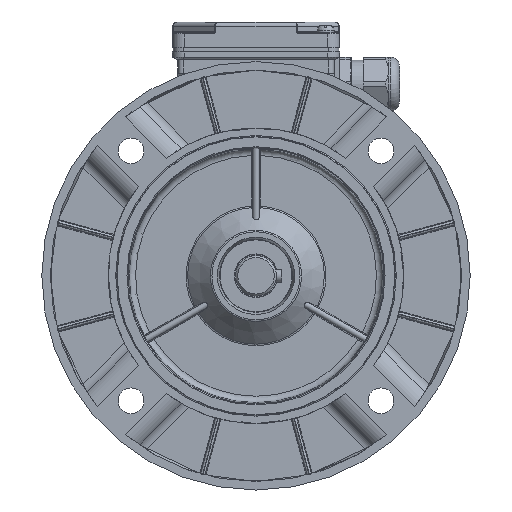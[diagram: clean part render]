
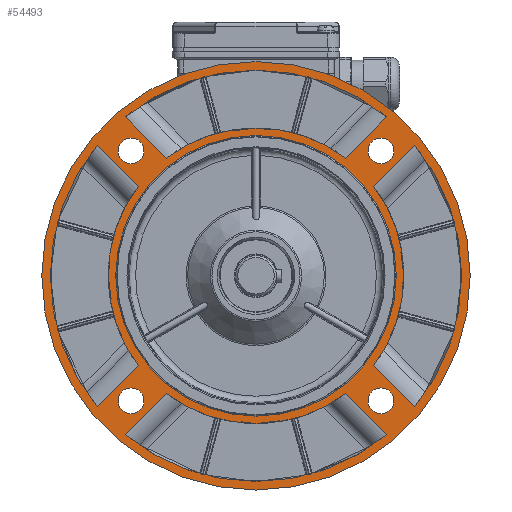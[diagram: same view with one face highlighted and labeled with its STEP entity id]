
A CAD part, left-side view. The second image highlights one B-rep face of the part: STEP entity #54493.
In plain terms, the highlighted planar face has unit normal (-1, 0, 0).
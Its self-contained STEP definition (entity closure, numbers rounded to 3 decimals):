
#4269=LINE('',#77975,#7408);
#4270=LINE('',#77986,#7409);
#4271=LINE('',#78009,#7410);
#4272=LINE('',#78020,#7411);
#4273=LINE('',#78046,#7412);
#4274=LINE('',#78057,#7413);
#4275=LINE('',#78080,#7414);
#4276=LINE('',#78091,#7415);
#7408=VECTOR('',#65931,1000.);
#7409=VECTOR('',#65938,1000.);
#7410=VECTOR('',#65945,1000.);
#7411=VECTOR('',#65952,1000.);
#7412=VECTOR('',#65963,1000.);
#7413=VECTOR('',#65970,1000.);
#7414=VECTOR('',#65977,1000.);
#7415=VECTOR('',#65984,1000.);
#14811=ORIENTED_EDGE('',*,*,#23784,.T.);
#14812=ORIENTED_EDGE('',*,*,#23782,.T.);
#14813=ORIENTED_EDGE('',*,*,#23781,.T.);
#14814=ORIENTED_EDGE('',*,*,#23778,.T.);
#14815=ORIENTED_EDGE('',*,*,#23776,.T.);
#14816=ORIENTED_EDGE('',*,*,#23774,.T.);
#14817=ORIENTED_EDGE('',*,*,#23773,.T.);
#14818=ORIENTED_EDGE('',*,*,#23770,.T.);
#14819=ORIENTED_EDGE('',*,*,#23789,.F.);
#14820=ORIENTED_EDGE('',*,*,#23790,.F.);
#14821=ORIENTED_EDGE('',*,*,#23791,.F.);
#14822=ORIENTED_EDGE('',*,*,#23792,.F.);
#14823=ORIENTED_EDGE('',*,*,#23768,.T.);
#14824=ORIENTED_EDGE('',*,*,#23793,.T.);
#14825=ORIENTED_EDGE('',*,*,#23767,.T.);
#14826=ORIENTED_EDGE('',*,*,#23765,.T.);
#14827=ORIENTED_EDGE('',*,*,#23764,.T.);
#14828=ORIENTED_EDGE('',*,*,#23761,.T.);
#14829=ORIENTED_EDGE('',*,*,#23759,.T.);
#14830=ORIENTED_EDGE('',*,*,#23757,.T.);
#14831=ORIENTED_EDGE('',*,*,#23756,.T.);
#14832=ORIENTED_EDGE('',*,*,#23753,.T.);
#23753=EDGE_CURVE('',#28778,#28777,#31663,.T.);
#23756=EDGE_CURVE('',#28779,#28778,#4269,.T.);
#23757=EDGE_CURVE('',#28780,#28779,#31664,.T.);
#23759=EDGE_CURVE('',#28777,#28780,#4270,.T.);
#23761=EDGE_CURVE('',#28782,#28781,#31665,.T.);
#23764=EDGE_CURVE('',#28783,#28782,#4271,.T.);
#23765=EDGE_CURVE('',#28784,#28783,#31666,.T.);
#23767=EDGE_CURVE('',#28781,#28784,#4272,.T.);
#23768=EDGE_CURVE('',#28785,#28785,#31667,.F.);
#23770=EDGE_CURVE('',#28787,#28786,#31668,.T.);
#23773=EDGE_CURVE('',#28788,#28787,#4273,.T.);
#23774=EDGE_CURVE('',#28789,#28788,#31669,.T.);
#23776=EDGE_CURVE('',#28786,#28789,#4274,.T.);
#23778=EDGE_CURVE('',#28791,#28790,#31670,.T.);
#23781=EDGE_CURVE('',#28792,#28791,#4275,.T.);
#23782=EDGE_CURVE('',#28793,#28792,#31671,.T.);
#23784=EDGE_CURVE('',#28790,#28793,#4276,.T.);
#23789=EDGE_CURVE('',#28798,#28798,#31672,.T.);
#23790=EDGE_CURVE('',#28799,#28799,#31673,.T.);
#23791=EDGE_CURVE('',#28800,#28800,#31674,.T.);
#23792=EDGE_CURVE('',#28801,#28801,#31675,.T.);
#23793=EDGE_CURVE('',#28802,#28802,#31676,.T.);
#28777=VERTEX_POINT('',#77959);
#28778=VERTEX_POINT('',#77961);
#28779=VERTEX_POINT('',#77974);
#28780=VERTEX_POINT('',#77978);
#28781=VERTEX_POINT('',#77993);
#28782=VERTEX_POINT('',#77995);
#28783=VERTEX_POINT('',#78008);
#28784=VERTEX_POINT('',#78012);
#28785=VERTEX_POINT('',#78023);
#28786=VERTEX_POINT('',#78030);
#28787=VERTEX_POINT('',#78032);
#28788=VERTEX_POINT('',#78045);
#28789=VERTEX_POINT('',#78049);
#28790=VERTEX_POINT('',#78064);
#28791=VERTEX_POINT('',#78066);
#28792=VERTEX_POINT('',#78079);
#28793=VERTEX_POINT('',#78083);
#28798=VERTEX_POINT('',#78103);
#28799=VERTEX_POINT('',#78105);
#28800=VERTEX_POINT('',#78107);
#28801=VERTEX_POINT('',#78109);
#28802=VERTEX_POINT('',#78111);
#31663=CIRCLE('',#57756,96.);
#31664=CIRCLE('',#57759,69.);
#31665=CIRCLE('',#57762,96.);
#31666=CIRCLE('',#57765,69.);
#31667=CIRCLE('',#57768,65.5);
#31668=CIRCLE('',#57770,96.);
#31669=CIRCLE('',#57773,69.);
#31670=CIRCLE('',#57776,96.);
#31671=CIRCLE('',#57779,69.);
#31672=CIRCLE('',#57783,6.);
#31673=CIRCLE('',#57784,6.);
#31674=CIRCLE('',#57785,6.);
#31675=CIRCLE('',#57786,6.);
#31676=CIRCLE('',#57787,100.);
#33796=EDGE_LOOP('',(#14811,#14812,#14813,#14814));
#33797=EDGE_LOOP('',(#14815,#14816,#14817,#14818));
#33798=EDGE_LOOP('',(#14819));
#33799=EDGE_LOOP('',(#14820));
#33800=EDGE_LOOP('',(#14821));
#33801=EDGE_LOOP('',(#14822));
#33802=EDGE_LOOP('',(#14823));
#33803=EDGE_LOOP('',(#14824));
#33804=EDGE_LOOP('',(#14825,#14826,#14827,#14828));
#33805=EDGE_LOOP('',(#14829,#14830,#14831,#14832));
#36530=FACE_BOUND('',#33796,.T.);
#36531=FACE_BOUND('',#33797,.T.);
#36532=FACE_BOUND('',#33798,.T.);
#36533=FACE_BOUND('',#33799,.T.);
#36534=FACE_BOUND('',#33800,.T.);
#36535=FACE_BOUND('',#33801,.T.);
#36536=FACE_BOUND('',#33802,.T.);
#36537=FACE_BOUND('',#33803,.T.);
#36538=FACE_BOUND('',#33804,.T.);
#36539=FACE_BOUND('',#33805,.T.);
#38517=PLANE('',#57782);
#54493=ADVANCED_FACE('',(#36530,#36531,#36532,#36533,#36534,#36535,#36536,
#36537,#36538,#36539),#38517,.T.);
#57756=AXIS2_PLACEMENT_3D('',#77960,#65927,#65928);
#57759=AXIS2_PLACEMENT_3D('',#77977,#65934,#65935);
#57762=AXIS2_PLACEMENT_3D('',#77994,#65941,#65942);
#57765=AXIS2_PLACEMENT_3D('',#78011,#65948,#65949);
#57768=AXIS2_PLACEMENT_3D('',#78022,#65955,#65956);
#57770=AXIS2_PLACEMENT_3D('',#78031,#65959,#65960);
#57773=AXIS2_PLACEMENT_3D('',#78048,#65966,#65967);
#57776=AXIS2_PLACEMENT_3D('',#78065,#65973,#65974);
#57779=AXIS2_PLACEMENT_3D('',#78082,#65980,#65981);
#57782=AXIS2_PLACEMENT_3D('',#78101,#65991,#65992);
#57783=AXIS2_PLACEMENT_3D('',#78102,#65993,#65994);
#57784=AXIS2_PLACEMENT_3D('',#78104,#65995,#65996);
#57785=AXIS2_PLACEMENT_3D('',#78106,#65997,#65998);
#57786=AXIS2_PLACEMENT_3D('',#78108,#65999,#66000);
#57787=AXIS2_PLACEMENT_3D('',#78110,#66001,#66002);
#65927=DIRECTION('',(1.,0.,0.));
#65928=DIRECTION('',(0.,0.,-1.));
#65931=DIRECTION('',(0.,0.707,0.707));
#65934=DIRECTION('',(-1.,0.,0.));
#65935=DIRECTION('',(0.,0.,-1.));
#65938=DIRECTION('',(0.,0.707,-0.707));
#65941=DIRECTION('',(1.,0.,0.));
#65942=DIRECTION('',(0.,0.,1.));
#65945=DIRECTION('',(0.,-0.707,-0.707));
#65948=DIRECTION('',(-1.,0.,0.));
#65949=DIRECTION('',(0.,0.,1.));
#65952=DIRECTION('',(0.,-0.707,0.707));
#65955=DIRECTION('',(-1.,0.,0.));
#65956=DIRECTION('',(0.,0.,-1.));
#65959=DIRECTION('',(1.,0.,0.));
#65960=DIRECTION('',(0.,1.,0.));
#65963=DIRECTION('',(0.,-0.707,0.707));
#65966=DIRECTION('',(-1.,0.,0.));
#65967=DIRECTION('',(0.,1.,0.));
#65970=DIRECTION('',(0.,0.707,0.707));
#65973=DIRECTION('',(1.,0.,0.));
#65974=DIRECTION('',(0.,-1.,0.));
#65977=DIRECTION('',(0.,0.707,-0.707));
#65980=DIRECTION('',(-1.,0.,0.));
#65981=DIRECTION('',(0.,-1.,0.));
#65984=DIRECTION('',(0.,-0.707,-0.707));
#65991=DIRECTION('',(-1.,0.,0.));
#65992=DIRECTION('',(0.,0.,-1.));
#65993=DIRECTION('',(-1.,0.,0.));
#65994=DIRECTION('',(0.,-1.,0.));
#65995=DIRECTION('',(-1.,0.,0.));
#65996=DIRECTION('',(0.,-1.,0.));
#65997=DIRECTION('',(-1.,0.,0.));
#65998=DIRECTION('',(0.,-1.,0.));
#65999=DIRECTION('',(-1.,0.,0.));
#66000=DIRECTION('',(0.,-1.,0.));
#66001=DIRECTION('',(-1.,0.,0.));
#66002=DIRECTION('',(0.,0.,-1.));
#77959=CARTESIAN_POINT('',(-44.3,-60.96,74.161));
#77960=CARTESIAN_POINT('',(-44.3,0.,0.));
#77961=CARTESIAN_POINT('',(-44.3,60.96,74.161));
#77974=CARTESIAN_POINT('',(-44.3,41.741,54.943));
#77975=CARTESIAN_POINT('',(-44.3,60.009,73.211));
#77977=CARTESIAN_POINT('',(-44.3,0.,0.));
#77978=CARTESIAN_POINT('',(-44.3,-41.741,54.943));
#77986=CARTESIAN_POINT('',(-44.3,-40.403,53.605));
#77993=CARTESIAN_POINT('',(-44.3,60.96,-74.161));
#77994=CARTESIAN_POINT('',(-44.3,0.,0.));
#77995=CARTESIAN_POINT('',(-44.3,-60.96,-74.161));
#78008=CARTESIAN_POINT('',(-44.3,-41.741,-54.943));
#78009=CARTESIAN_POINT('',(-44.3,-60.009,-73.211));
#78011=CARTESIAN_POINT('',(-44.3,0.,0.));
#78012=CARTESIAN_POINT('',(-44.3,41.741,-54.943));
#78020=CARTESIAN_POINT('',(-44.3,40.403,-53.605));
#78022=CARTESIAN_POINT('',(-44.3,0.,0.));
#78023=CARTESIAN_POINT('',(-44.3,0.,-65.5));
#78030=CARTESIAN_POINT('',(-44.3,-74.161,-60.96));
#78031=CARTESIAN_POINT('',(-44.3,0.,0.));
#78032=CARTESIAN_POINT('',(-44.3,-74.161,60.96));
#78045=CARTESIAN_POINT('',(-44.3,-54.943,41.741));
#78046=CARTESIAN_POINT('',(-44.3,-73.211,60.009));
#78048=CARTESIAN_POINT('',(-44.3,0.,0.));
#78049=CARTESIAN_POINT('',(-44.3,-54.943,-41.741));
#78057=CARTESIAN_POINT('',(-44.3,-53.605,-40.403));
#78064=CARTESIAN_POINT('',(-44.3,74.161,60.96));
#78065=CARTESIAN_POINT('',(-44.3,0.,0.));
#78066=CARTESIAN_POINT('',(-44.3,74.161,-60.96));
#78079=CARTESIAN_POINT('',(-44.3,54.943,-41.741));
#78080=CARTESIAN_POINT('',(-44.3,73.211,-60.009));
#78082=CARTESIAN_POINT('',(-44.3,0.,0.));
#78083=CARTESIAN_POINT('',(-44.3,54.943,41.741));
#78091=CARTESIAN_POINT('',(-44.3,53.605,40.403));
#78101=CARTESIAN_POINT('',(-44.3,0.,-65.));
#78102=CARTESIAN_POINT('',(-44.3,58.336,-58.336));
#78103=CARTESIAN_POINT('',(-44.3,52.336,-58.336));
#78104=CARTESIAN_POINT('',(-44.3,-58.336,-58.336));
#78105=CARTESIAN_POINT('',(-44.3,-64.336,-58.336));
#78106=CARTESIAN_POINT('',(-44.3,-58.336,58.336));
#78107=CARTESIAN_POINT('',(-44.3,-64.336,58.336));
#78108=CARTESIAN_POINT('',(-44.3,58.336,58.336));
#78109=CARTESIAN_POINT('',(-44.3,52.336,58.336));
#78110=CARTESIAN_POINT('',(-44.3,0.,0.));
#78111=CARTESIAN_POINT('',(-44.3,0.,-100.));
